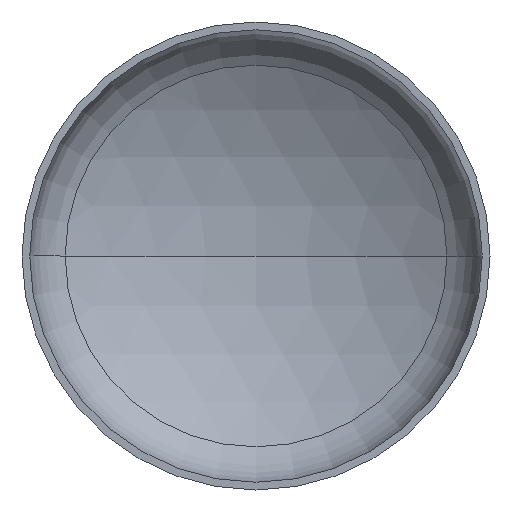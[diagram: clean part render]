
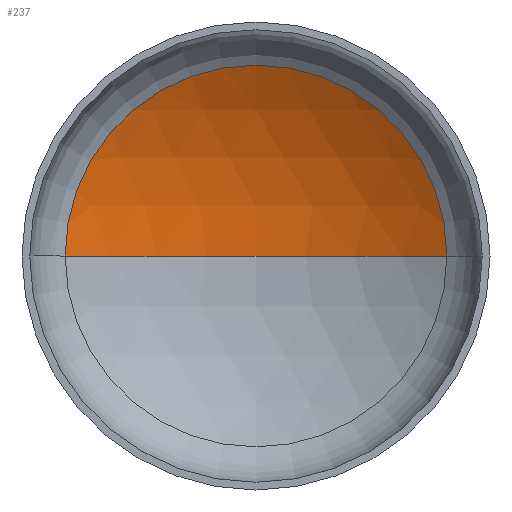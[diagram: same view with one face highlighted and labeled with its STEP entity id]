
A CAD part, front view. The second image highlights one B-rep face of the part: STEP entity #237.
In plain terms, the highlighted spherical face has radius 5600 mm.
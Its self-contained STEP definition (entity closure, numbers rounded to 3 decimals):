
#29 = VERTEX_POINT ( 'NONE', #361 ) ;
#36 = AXIS2_PLACEMENT_3D ( 'NONE', #148, #356, #399 ) ;
#56 = CARTESIAN_POINT ( 'NONE',  ( 0., -3813.7, 0. ) ) ;
#58 = VERTEX_POINT ( 'NONE', #233 ) ;
#66 = AXIS2_PLACEMENT_3D ( 'NONE', #56, #299, #153 ) ;
#73 = AXIS2_PLACEMENT_3D ( 'NONE', #300, #155, #318 ) ;
#77 = AXIS2_PLACEMENT_3D ( 'NONE', #189, #165, #167 ) ;
#78 = ORIENTED_EDGE ( 'NONE', *, *, #136, .T. ) ;
#92 = ORIENTED_EDGE ( 'NONE', *, *, #137, .T. ) ;
#108 = VERTEX_POINT ( 'NONE', #217 ) ;
#136 = EDGE_CURVE ( 'NONE', #29, #58, #379, .T. ) ;
#137 = EDGE_CURVE ( 'NONE', #108, #29, #320, .T. ) ;
#138 = EDGE_CURVE ( 'NONE', #108, #58, #199, .T. ) ;
#148 = CARTESIAN_POINT ( 'NONE',  ( 0., -3813.7, 0. ) ) ;
#153 = DIRECTION ( 'NONE',  ( 1., 0., 0. ) ) ;
#155 = DIRECTION ( 'NONE',  ( 0., 0., -1. ) ) ;
#165 = DIRECTION ( 'NONE',  ( 0., -1., 0. ) ) ;
#167 = DIRECTION ( 'NONE',  ( 1., 0., 0. ) ) ;
#189 = CARTESIAN_POINT ( 'NONE',  ( 0., 1004.158, 0. ) ) ;
#199 = CIRCLE ( 'NONE', #66, 5600. ) ;
#217 = CARTESIAN_POINT ( 'NONE',  ( 0., 1786.3, 0. ) ) ;
#233 = CARTESIAN_POINT ( 'NONE',  ( -2854.513, 1004.158, 0. ) ) ;
#237 = ADVANCED_FACE ( 'NONE', ( #409 ), #309, .F. ) ;
#299 = DIRECTION ( 'NONE',  ( 0., 0., 1. ) ) ;
#300 = CARTESIAN_POINT ( 'NONE',  ( 0., -3813.7, 0. ) ) ;
#309 = SPHERICAL_SURFACE ( 'NONE', #36, 5600. ) ;
#318 = DIRECTION ( 'NONE',  ( -1., 0., 0. ) ) ;
#320 = CIRCLE ( 'NONE', #73, 5600. ) ;
#340 = ORIENTED_EDGE ( 'NONE', *, *, #138, .F. ) ;
#356 = DIRECTION ( 'NONE',  ( 0., 0., -1. ) ) ;
#361 = CARTESIAN_POINT ( 'NONE',  ( 2854.513, 1004.158, 0. ) ) ;
#379 = CIRCLE ( 'NONE', #77, 2854.513 ) ;
#395 = EDGE_LOOP ( 'NONE', ( #340, #92, #78 ) ) ;
#399 = DIRECTION ( 'NONE',  ( -1., 0., 0. ) ) ;
#409 = FACE_OUTER_BOUND ( 'NONE', #395, .T. ) ;
